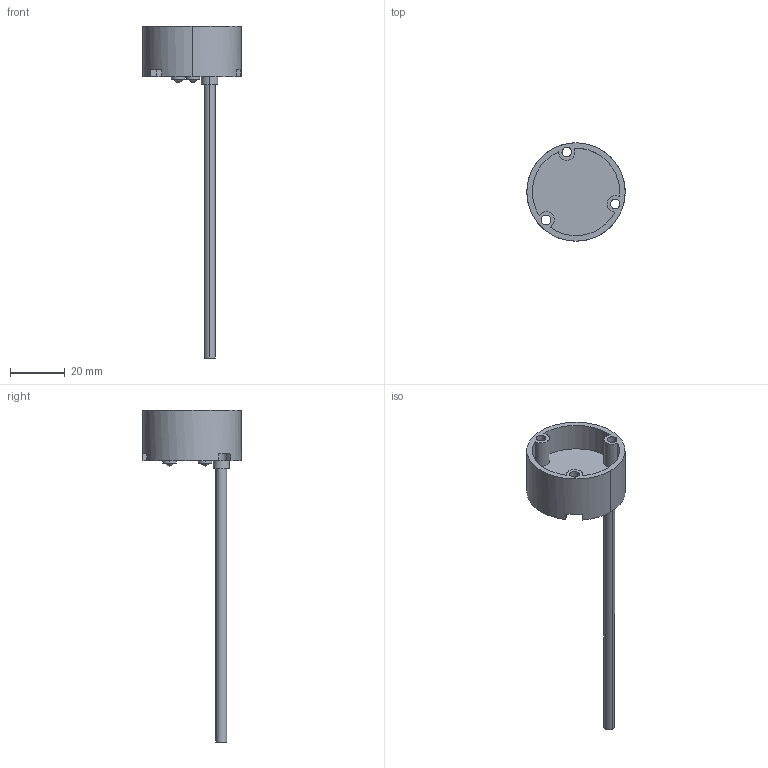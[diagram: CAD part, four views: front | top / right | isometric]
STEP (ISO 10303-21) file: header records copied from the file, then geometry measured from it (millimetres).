
FILE_DESCRIPTION (( 'STEP AP203' ), '1' );
FILE_NAME ('SR3.STEP', '2016-06-21T01:12:15', ( '' ), ( '' ), 'SwSTEP 2.0', 'SolidWorks 2014', '' );
FILE_SCHEMA (( 'CONFIG_CONTROL_DESIGN' ));
Length unit declared in the file: metre
Products named in the file (1): SR3
Bounding box: 36 x 36 x 121.5 mm (x, y, z)
Volume: 11691.9 mm3; surface area: 7232.4 mm2
Topology: 1 solids, 1 shells, 54 faces, 141 edges, 92 vertices
Faces by surface type: cylinder 34, plane 16, bspline 4
Entity records: 1812 total; most frequent: CARTESIAN_POINT 344, DIRECTION 321, ORIENTED_EDGE 274, EDGE_CURVE 137, AXIS2_PLACEMENT_3D 133, VERTEX_POINT 92, CIRCLE 82, EDGE_LOOP 67
